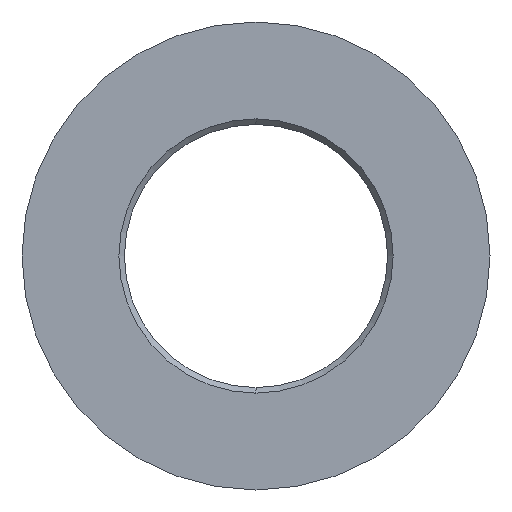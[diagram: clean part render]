
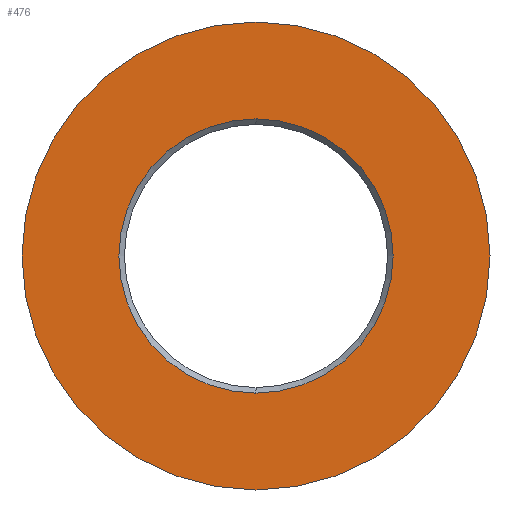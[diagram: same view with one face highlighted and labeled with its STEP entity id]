
A CAD part, left-side view. The second image highlights one B-rep face of the part: STEP entity #476.
In plain terms, the highlighted planar face has unit normal (-1, 0, 0).
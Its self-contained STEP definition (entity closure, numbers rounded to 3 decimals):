
#39 = EDGE_CURVE ( 'NONE', #369, #370, #627, .T. ) ;
#136 = VERTEX_POINT ( 'NONE', #868 ) ;
#236 = VERTEX_POINT ( 'NONE', #1270 ) ;
#238 = EDGE_CURVE ( 'NONE', #136, #236, #1268, .T. ) ;
#309 = ORIENTED_EDGE ( 'NONE', *, *, #475, .F. ) ;
#310 = ORIENTED_EDGE ( 'NONE', *, *, #39, .F. ) ;
#369 = VERTEX_POINT ( 'NONE', #1414 ) ;
#370 = VERTEX_POINT ( 'NONE', #1413 ) ;
#475 = EDGE_CURVE ( 'NONE', #370, #369, #1692, .T. ) ;
#476 = ADVANCED_FACE ( 'NONE', ( #1687, #1686 ), #1685, .F. ) ;
#477 = EDGE_LOOP ( 'NONE', ( #478, #479 ) ) ;
#478 = ORIENTED_EDGE ( 'NONE', *, *, #238, .T. ) ;
#479 = ORIENTED_EDGE ( 'NONE', *, *, #480, .T. ) ;
#480 = EDGE_CURVE ( 'NONE', #236, #136, #1683, .T. ) ;
#481 = EDGE_LOOP ( 'NONE', ( #309, #310 ) ) ;
#623 = DIRECTION ( 'NONE',  ( 0., 0., -1. ) ) ;
#624 = DIRECTION ( 'NONE',  ( 1., 0., 0. ) ) ;
#625 = CARTESIAN_POINT ( 'NONE',  ( 0., 0., 0. ) ) ;
#626 = AXIS2_PLACEMENT_3D ( 'NONE', #625, #624, #623 ) ;
#627 = CIRCLE ( 'NONE', #626, 12.625 ) ;
#868 = CARTESIAN_POINT ( 'NONE',  ( 0., 0., 7.4 ) ) ;
#1264 = DIRECTION ( 'NONE',  ( 0., 0., -1. ) ) ;
#1265 = DIRECTION ( 'NONE',  ( 1., 0., 0. ) ) ;
#1266 = CARTESIAN_POINT ( 'NONE',  ( 0., 0., 0. ) ) ;
#1267 = AXIS2_PLACEMENT_3D ( 'NONE', #1266, #1265, #1264 ) ;
#1268 = CIRCLE ( 'NONE', #1267, 7.4 ) ;
#1270 = CARTESIAN_POINT ( 'NONE',  ( 0., 0., -7.4 ) ) ;
#1413 = CARTESIAN_POINT ( 'NONE',  ( 0., 0., 12.625 ) ) ;
#1414 = CARTESIAN_POINT ( 'NONE',  ( 0., 0., -12.625 ) ) ;
#1676 = DIRECTION ( 'NONE',  ( 0., 0., -1. ) ) ;
#1677 = DIRECTION ( 'NONE',  ( 1., 0., 0. ) ) ;
#1678 = CARTESIAN_POINT ( 'NONE',  ( 0., 0., 0. ) ) ;
#1679 = AXIS2_PLACEMENT_3D ( 'NONE', #1678, #1677, #1676 ) ;
#1680 = DIRECTION ( 'NONE',  ( 0., 0., -1. ) ) ;
#1681 = DIRECTION ( 'NONE',  ( 1., 0., 0. ) ) ;
#1682 = AXIS2_PLACEMENT_3D ( 'NONE', #1684, #1681, #1680 ) ;
#1683 = CIRCLE ( 'NONE', #1679, 7.4 ) ;
#1684 = CARTESIAN_POINT ( 'NONE',  ( 0., 0., 0. ) ) ;
#1685 = PLANE ( 'NONE',  #1682 ) ;
#1686 = FACE_OUTER_BOUND ( 'NONE', #481, .T. ) ;
#1687 = FACE_BOUND ( 'NONE', #477, .T. ) ;
#1688 = DIRECTION ( 'NONE',  ( 0., 0., -1. ) ) ;
#1689 = DIRECTION ( 'NONE',  ( 1., 0., 0. ) ) ;
#1690 = CARTESIAN_POINT ( 'NONE',  ( 0., 0., 0. ) ) ;
#1691 = AXIS2_PLACEMENT_3D ( 'NONE', #1690, #1689, #1688 ) ;
#1692 = CIRCLE ( 'NONE', #1691, 12.625 ) ;
